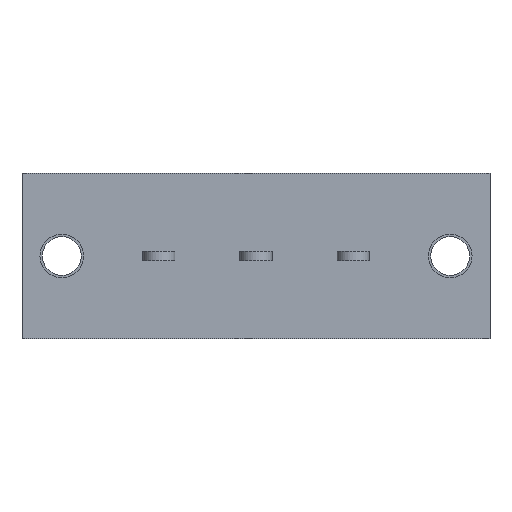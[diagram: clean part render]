
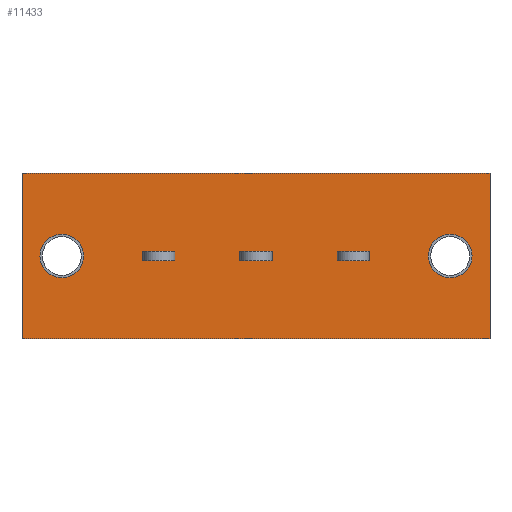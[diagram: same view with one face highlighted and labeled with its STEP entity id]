
A CAD part, front view. The second image highlights one B-rep face of the part: STEP entity #11433.
In plain terms, the highlighted planar face has unit normal (0, -1, 0).
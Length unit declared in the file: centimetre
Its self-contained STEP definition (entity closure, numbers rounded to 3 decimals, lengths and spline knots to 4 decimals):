
#629=CIRCLE('',#11892,0.225);
#678=CIRCLE('',#12161,0.225);
#695=VERTEX_POINT('',#14606);
#696=VERTEX_POINT('',#14607);
#700=VERTEX_POINT('',#14617);
#727=VERTEX_POINT('',#14684);
#779=VERTEX_POINT('',#14896);
#780=VERTEX_POINT('',#14897);
#784=VERTEX_POINT('',#14907);
#811=VERTEX_POINT('',#14974);
#940=VERTEX_POINT('',#15410);
#947=VERTEX_POINT('',#15423);
#948=VERTEX_POINT('',#15438);
#1440=VERTEX_POINT('',#17417);
#1441=VERTEX_POINT('',#17419);
#1446=VERTEX_POINT('',#17431);
#1453=VERTEX_POINT('',#17456);
#1454=VERTEX_POINT('',#17457);
#1458=VERTEX_POINT('',#17467);
#1468=VERTEX_POINT('',#17498);
#1839=VECTOR('',#12355,1.);
#1843=VECTOR('',#12362,1.);
#1867=VECTOR('',#12413,1.);
#1870=VECTOR('',#12425,1.);
#1911=VECTOR('',#12579,1.);
#1915=VECTOR('',#12586,1.);
#1939=VECTOR('',#12637,1.);
#1942=VECTOR('',#12649,1.);
#2085=VECTOR('',#12979,1.);
#2648=VECTOR('',#13897,1.);
#2665=VECTOR('',#13924,1.);
#2669=VECTOR('',#13931,1.);
#2679=VECTOR('',#13959,1.);
#2682=VECTOR('',#13971,1.);
#2723=VECTOR('',#14037,1.);
#2724=VECTOR('',#14038,1.);
#3135=LINE('',#14605,#1839);
#3139=LINE('',#14616,#1843);
#3163=LINE('',#14683,#1867);
#3166=LINE('',#14694,#1870);
#3207=LINE('',#14895,#1911);
#3211=LINE('',#14906,#1915);
#3235=LINE('',#14973,#1939);
#3238=LINE('',#14984,#1942);
#3381=LINE('',#15424,#2085);
#3944=LINE('',#17418,#2648);
#3961=LINE('',#17455,#2665);
#3965=LINE('',#17466,#2669);
#3975=LINE('',#17497,#2679);
#3978=LINE('',#17508,#2682);
#4019=LINE('',#17598,#2723);
#4020=LINE('',#17599,#2724);
#4431=EDGE_CURVE('',#695,#696,#3135,.T.);
#4436=EDGE_CURVE('',#700,#695,#3139,.T.);
#4469=EDGE_CURVE('',#696,#727,#3163,.T.);
#4474=EDGE_CURVE('',#727,#700,#3166,.T.);
#4555=EDGE_CURVE('',#779,#780,#3207,.T.);
#4560=EDGE_CURVE('',#784,#779,#3211,.T.);
#4593=EDGE_CURVE('',#780,#811,#3235,.T.);
#4598=EDGE_CURVE('',#811,#784,#3238,.T.);
#4796=EDGE_CURVE('',#947,#940,#3381,.T.);
#4803=EDGE_CURVE('',#948,#948,#629,.T.);
#5529=EDGE_CURVE('',#1441,#1440,#3944,.T.);
#5535=EDGE_CURVE('',#1446,#1446,#678,.T.);
#5547=EDGE_CURVE('',#1453,#1454,#3961,.T.);
#5552=EDGE_CURVE('',#1458,#1453,#3965,.T.);
#5567=EDGE_CURVE('',#1454,#1468,#3975,.T.);
#5572=EDGE_CURVE('',#1468,#1458,#3978,.T.);
#5617=EDGE_CURVE('',#1440,#940,#4019,.T.);
#5618=EDGE_CURVE('',#947,#1441,#4020,.T.);
#8441=ORIENTED_EDGE('',*,*,#4436,.T.);
#8442=ORIENTED_EDGE('',*,*,#4431,.T.);
#8443=ORIENTED_EDGE('',*,*,#4469,.T.);
#8444=ORIENTED_EDGE('',*,*,#4474,.T.);
#8445=ORIENTED_EDGE('',*,*,#4560,.T.);
#8446=ORIENTED_EDGE('',*,*,#4555,.T.);
#8447=ORIENTED_EDGE('',*,*,#4593,.T.);
#8448=ORIENTED_EDGE('',*,*,#4598,.T.);
#8449=ORIENTED_EDGE('',*,*,#4803,.T.);
#8450=ORIENTED_EDGE('',*,*,#5535,.T.);
#8451=ORIENTED_EDGE('',*,*,#5552,.T.);
#8452=ORIENTED_EDGE('',*,*,#5547,.T.);
#8453=ORIENTED_EDGE('',*,*,#5567,.T.);
#8454=ORIENTED_EDGE('',*,*,#5572,.T.);
#8455=ORIENTED_EDGE('',*,*,#5617,.T.);
#8456=ORIENTED_EDGE('',*,*,#4796,.F.);
#8457=ORIENTED_EDGE('',*,*,#5618,.T.);
#8458=ORIENTED_EDGE('',*,*,#5529,.T.);
#10048=EDGE_LOOP('',(#8441,#8442,#8443,#8444));
#10049=EDGE_LOOP('',(#8445,#8446,#8447,#8448));
#10050=EDGE_LOOP('',(#8449));
#10051=EDGE_LOOP('',(#8450));
#10052=EDGE_LOOP('',(#8451,#8452,#8453,#8454));
#10053=EDGE_LOOP('',(#8455,#8456,#8457,#8458));
#10772=FACE_BOUND('',#10048,.T.);
#10773=FACE_BOUND('',#10049,.T.);
#10774=FACE_BOUND('',#10050,.T.);
#10775=FACE_BOUND('',#10051,.T.);
#10776=FACE_BOUND('',#10052,.T.);
#10777=FACE_BOUND('',#10053,.T.);
#11433=ADVANCED_FACE('',(#10772,#10773,#10774,#10775,#10776,#10777),#19439,
 .T.);
#11892=AXIS2_PLACEMENT_3D('',#15437,#12993,#12994);
#12161=AXIS2_PLACEMENT_3D('',#17430,#13905,#13906);
#12206=AXIS2_PLACEMENT_3D('',#17597,#14036,$);
#12355=DIRECTION('',(0.,0.,-1.));
#12362=DIRECTION('',(1.,0.,0.));
#12413=DIRECTION('',(-1.,0.,0.));
#12425=DIRECTION('',(0.,0.,1.));
#12579=DIRECTION('',(0.,0.,-1.));
#12586=DIRECTION('',(1.,0.,0.));
#12637=DIRECTION('',(-1.,0.,0.));
#12649=DIRECTION('',(0.,0.,1.));
#12979=DIRECTION('',(0.,0.,-1.));
#12993=DIRECTION('',(0.,1.,0.));
#12994=DIRECTION('',(0.,0.,0.225));
#13897=DIRECTION('',(0.,0.,-1.));
#13905=DIRECTION('',(0.,1.,0.));
#13906=DIRECTION('',(0.,0.,0.225));
#13924=DIRECTION('',(0.,0.,-1.));
#13931=DIRECTION('',(1.,0.,0.));
#13959=DIRECTION('',(-1.,0.,0.));
#13971=DIRECTION('',(0.,0.,1.));
#14036=DIRECTION('',(0.,-1.,0.));
#14037=DIRECTION('',(1.,0.,0.));
#14038=DIRECTION('',(-1.,0.,0.));
#14605=CARTESIAN_POINT('',(2.755,0.,0.));
#14606=CARTESIAN_POINT('',(2.755,0.,0.05));
#14607=CARTESIAN_POINT('',(2.755,0.,-0.05));
#14616=CARTESIAN_POINT('',(1.295,0.,0.05));
#14617=CARTESIAN_POINT('',(2.425,0.,0.05));
#14683=CARTESIAN_POINT('',(1.295,0.,-0.05));
#14684=CARTESIAN_POINT('',(2.425,0.,-0.05));
#14694=CARTESIAN_POINT('',(2.425,0.,0.));
#14895=CARTESIAN_POINT('',(1.755,0.,0.));
#14896=CARTESIAN_POINT('',(1.755,0.,0.05));
#14897=CARTESIAN_POINT('',(1.755,0.,-0.05));
#14906=CARTESIAN_POINT('',(0.795,0.,0.05));
#14907=CARTESIAN_POINT('',(1.425,0.,0.05));
#14973=CARTESIAN_POINT('',(0.795,0.,-0.05));
#14974=CARTESIAN_POINT('',(1.425,0.,-0.05));
#14984=CARTESIAN_POINT('',(1.425,0.,0.));
#15410=CARTESIAN_POINT('',(4.,0.,-0.85));
#15423=CARTESIAN_POINT('',(4.,0.,0.85));
#15424=CARTESIAN_POINT('',(4.,0.,0.85));
#15437=CARTESIAN_POINT('',(3.59,0.,0.));
#15438=CARTESIAN_POINT('',(3.59,0.,-0.225));
#17417=CARTESIAN_POINT('',(-0.82,0.,-0.85));
#17418=CARTESIAN_POINT('',(-0.82,0.,0.85));
#17419=CARTESIAN_POINT('',(-0.82,0.,0.85));
#17430=CARTESIAN_POINT('',(-0.41,0.,0.));
#17431=CARTESIAN_POINT('',(-0.41,0.,-0.225));
#17455=CARTESIAN_POINT('',(0.755,0.,0.));
#17456=CARTESIAN_POINT('',(0.755,0.,0.05));
#17457=CARTESIAN_POINT('',(0.755,0.,-0.05));
#17466=CARTESIAN_POINT('',(0.295,0.,0.05));
#17467=CARTESIAN_POINT('',(0.425,0.,0.05));
#17497=CARTESIAN_POINT('',(0.295,0.,-0.05));
#17498=CARTESIAN_POINT('',(0.425,0.,-0.05));
#17508=CARTESIAN_POINT('',(0.425,0.,0.));
#17597=CARTESIAN_POINT('',(0.,0.,0.));
#17598=CARTESIAN_POINT('',(2.,0.,-0.85));
#17599=CARTESIAN_POINT('',(0.,0.,0.85));
#19439=PLANE('',#12206);
